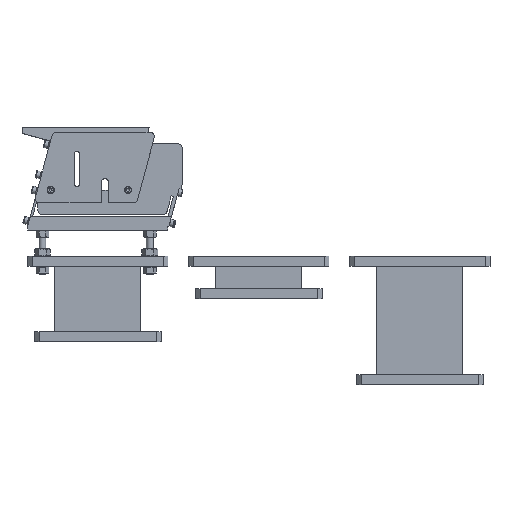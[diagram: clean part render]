
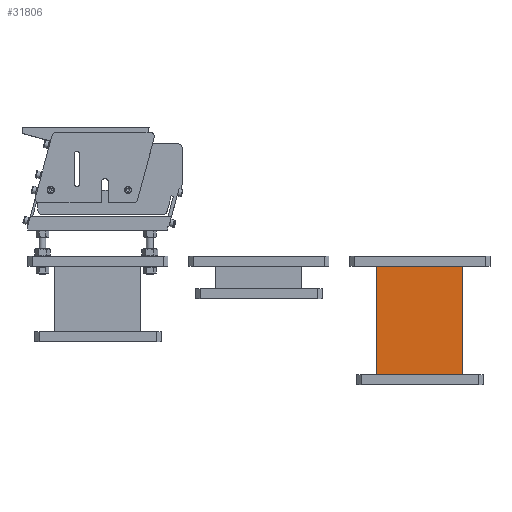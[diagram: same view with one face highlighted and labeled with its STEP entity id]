
A CAD part, front view. The second image highlights one B-rep face of the part: STEP entity #31806.
In plain terms, the highlighted planar face has unit normal (0, -1, 0).
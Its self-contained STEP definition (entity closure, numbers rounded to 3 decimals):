
#334 = DIRECTION ( 'NONE',  ( 0., 1., 0. ) ) ;
#703 = DIRECTION ( 'NONE',  ( 0., 0., 1. ) ) ;
#1370 = LINE ( 'NONE', #5959, #22306 ) ;
#2412 = VERTEX_POINT ( 'NONE', #25707 ) ;
#2498 = VERTEX_POINT ( 'NONE', #33136 ) ;
#2711 = VECTOR ( 'NONE', #2872, 1000. ) ;
#2872 = DIRECTION ( 'NONE',  ( -1., 0., 0. ) ) ;
#3375 = VERTEX_POINT ( 'NONE', #32923 ) ;
#4509 = ORIENTED_EDGE ( 'NONE', *, *, #21427, .T. ) ;
#5395 = LINE ( 'NONE', #30817, #15023 ) ;
#5686 = CARTESIAN_POINT ( 'NONE',  ( 424.682, -6., -168. ) ) ;
#5959 = CARTESIAN_POINT ( 'NONE',  ( 324.682, -6., -118. ) ) ;
#6494 = EDGE_CURVE ( 'NONE', #23188, #2412, #16962, .T. ) ;
#7246 = ORIENTED_EDGE ( 'NONE', *, *, #23642, .F. ) ;
#7751 = DIRECTION ( 'NONE',  ( 0., 0., 1. ) ) ;
#10439 = CARTESIAN_POINT ( 'NONE',  ( 424.682, -6., -42. ) ) ;
#10606 = CARTESIAN_POINT ( 'NONE',  ( 424.682, -6., -118. ) ) ;
#12939 = VECTOR ( 'NONE', #22162, 1000. ) ;
#14114 = CARTESIAN_POINT ( 'NONE',  ( 424.682, -6., -168. ) ) ;
#14665 = EDGE_CURVE ( 'NONE', #2498, #3375, #23217, .T. ) ;
#14874 = ORIENTED_EDGE ( 'NONE', *, *, #6494, .F. ) ;
#15023 = VECTOR ( 'NONE', #7751, 1000. ) ;
#16962 = LINE ( 'NONE', #14114, #12939 ) ;
#18518 = PLANE ( 'NONE',  #18833 ) ;
#18833 = AXIS2_PLACEMENT_3D ( 'NONE', #10606, #334, #23378 ) ;
#21427 = EDGE_CURVE ( 'NONE', #23188, #2498, #5395, .T. ) ;
#22162 = DIRECTION ( 'NONE',  ( -1., 0., 0. ) ) ;
#22306 = VECTOR ( 'NONE', #703, 1000. ) ;
#23188 = VERTEX_POINT ( 'NONE', #5686 ) ;
#23217 = LINE ( 'NONE', #10439, #2711 ) ;
#23378 = DIRECTION ( 'NONE',  ( 0., 0., 1. ) ) ;
#23642 = EDGE_CURVE ( 'NONE', #2412, #3375, #1370, .T. ) ;
#24400 = EDGE_LOOP ( 'NONE', ( #31940, #7246, #14874, #4509 ) ) ;
#25707 = CARTESIAN_POINT ( 'NONE',  ( 324.682, -6., -168. ) ) ;
#30817 = CARTESIAN_POINT ( 'NONE',  ( 424.682, -6., -118. ) ) ;
#31506 = FACE_OUTER_BOUND ( 'NONE', #24400, .T. ) ;
#31806 = ADVANCED_FACE ( 'NONE', ( #31506 ), #18518, .F. ) ;
#31940 = ORIENTED_EDGE ( 'NONE', *, *, #14665, .T. ) ;
#32923 = CARTESIAN_POINT ( 'NONE',  ( 324.682, -6., -42. ) ) ;
#33136 = CARTESIAN_POINT ( 'NONE',  ( 424.682, -6., -42. ) ) ;
